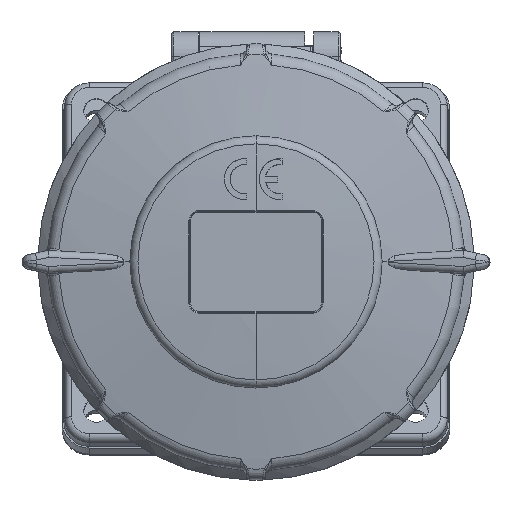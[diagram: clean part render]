
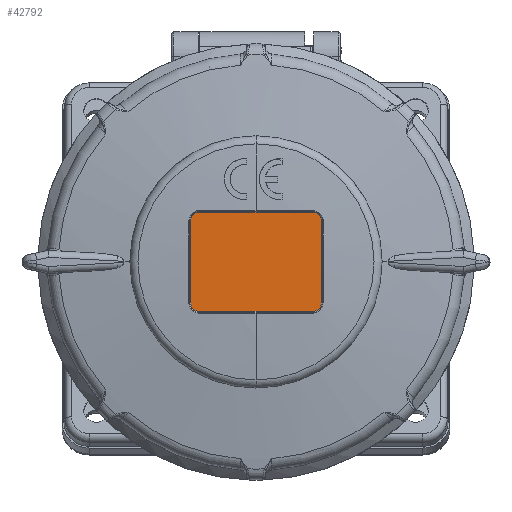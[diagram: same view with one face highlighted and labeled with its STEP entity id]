
A CAD part, top view. The second image highlights one B-rep face of the part: STEP entity #42792.
In plain terms, the highlighted planar face has unit normal (0, 0, 1).
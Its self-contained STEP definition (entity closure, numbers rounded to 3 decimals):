
#3648=CARTESIAN_POINT('',(12.5,9.,14.8));
#3649=DIRECTION('',(0.,0.,-1.));
#3650=DIRECTION('',(0.,1.,0.));
#3651=AXIS2_PLACEMENT_3D('',#3648,#3649,#3650);
#3653=DIRECTION('',(0.,-1.,0.));
#3654=VECTOR('',#3653,18.);
#3655=CARTESIAN_POINT('',(14.35,9.,14.8));
#3656=LINE('7008',#3655,#3654);
#3657=CARTESIAN_POINT('',(12.5,-9.,14.8));
#3658=DIRECTION('',(0.,0.,-1.));
#3659=DIRECTION('',(1.,0.,0.));
#3660=AXIS2_PLACEMENT_3D('',#3657,#3658,#3659);
#3662=DIRECTION('',(-1.,0.,0.));
#3663=VECTOR('',#3662,25.);
#3664=CARTESIAN_POINT('',(12.5,-10.85,14.8));
#3665=LINE('7011',#3664,#3663);
#3666=CARTESIAN_POINT('',(-12.5,-9.,14.8));
#3667=DIRECTION('',(0.,0.,-1.));
#3668=DIRECTION('',(0.,-1.,0.));
#3669=AXIS2_PLACEMENT_3D('',#3666,#3667,#3668);
#3671=DIRECTION('',(0.,1.,0.));
#3672=VECTOR('',#3671,18.);
#3673=CARTESIAN_POINT('',(-14.35,-9.,14.8));
#3674=LINE('7015',#3673,#3672);
#3675=CARTESIAN_POINT('',(-12.5,9.,14.8));
#3676=DIRECTION('',(0.,0.,-1.));
#3677=DIRECTION('',(-1.,0.,0.));
#3678=AXIS2_PLACEMENT_3D('',#3675,#3676,#3677);
#3680=DIRECTION('',(1.,0.,0.));
#3681=VECTOR('',#3680,25.);
#3682=CARTESIAN_POINT('',(-12.5,10.85,14.8));
#3683=LINE('7018',#3682,#3681);
#34558=CARTESIAN_POINT('',(12.5,10.85,14.8));
#34559=CARTESIAN_POINT('',(14.35,9.,14.8));
#34560=VERTEX_POINT('',#34558);
#34561=VERTEX_POINT('',#34559);
#34566=CARTESIAN_POINT('',(14.35,-9.,14.8));
#34567=VERTEX_POINT('',#34566);
#34568=CARTESIAN_POINT('',(12.5,-10.85,14.8));
#34569=VERTEX_POINT('',#34568);
#34574=CARTESIAN_POINT('',(-12.5,-10.85,14.8));
#34575=VERTEX_POINT('',#34574);
#34578=CARTESIAN_POINT('',(-14.35,-9.,14.8));
#34579=VERTEX_POINT('',#34578);
#34582=CARTESIAN_POINT('',(-14.35,9.,14.8));
#34583=VERTEX_POINT('',#34582);
#34584=CARTESIAN_POINT('',(-12.5,10.85,14.8));
#34585=VERTEX_POINT('',#34584);
#42770=CARTESIAN_POINT('',(0.,0.,14.8));
#42771=DIRECTION('',(0.,0.,1.));
#42772=DIRECTION('',(1.,0.,0.));
#42773=AXIS2_PLACEMENT_3D('',#42770,#42771,#42772);
#42774=PLANE('1998',#42773);
#42776=ORIENTED_EDGE('7006',*,*,#42775,.T.);
#42778=ORIENTED_EDGE('7008',*,*,#42777,.T.);
#42780=ORIENTED_EDGE('7009',*,*,#42779,.T.);
#42781=ORIENTED_EDGE('7011',*,*,#42748,.T.);
#42783=ORIENTED_EDGE('7013',*,*,#42782,.T.);
#42785=ORIENTED_EDGE('7015',*,*,#42784,.T.);
#42787=ORIENTED_EDGE('7016',*,*,#42786,.T.);
#42789=ORIENTED_EDGE('7018',*,*,#42788,.T.);
#42790=EDGE_LOOP('1998',(#42776,#42778,#42780,#42781,#42783,#42785,#42787,
#42789));
#42791=FACE_OUTER_BOUND('1998',#42790,.F.);
#3652=CIRCLE('7006',#3651,1.85);
#3661=CIRCLE('7009',#3660,1.85);
#3670=CIRCLE('7013',#3669,1.85);
#3679=CIRCLE('7016',#3678,1.85);
#42748=EDGE_CURVE('7011',#34569,#34575,#3665,.T.);
#42775=EDGE_CURVE('7006',#34560,#34561,#3652,.T.);
#42777=EDGE_CURVE('7008',#34561,#34567,#3656,.T.);
#42779=EDGE_CURVE('7009',#34567,#34569,#3661,.T.);
#42782=EDGE_CURVE('7013',#34575,#34579,#3670,.T.);
#42784=EDGE_CURVE('7015',#34579,#34583,#3674,.T.);
#42786=EDGE_CURVE('7016',#34583,#34585,#3679,.T.);
#42788=EDGE_CURVE('7018',#34585,#34560,#3683,.T.);
#42792=ADVANCED_FACE('1998',(#42791),#42774,.T.);
